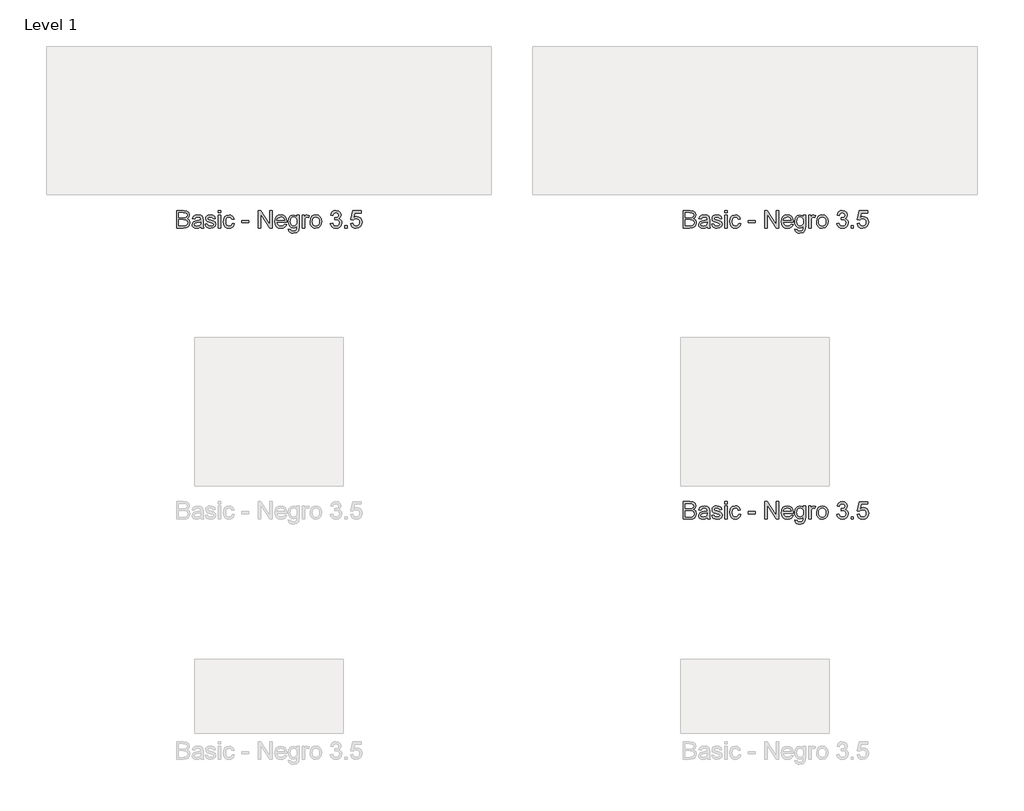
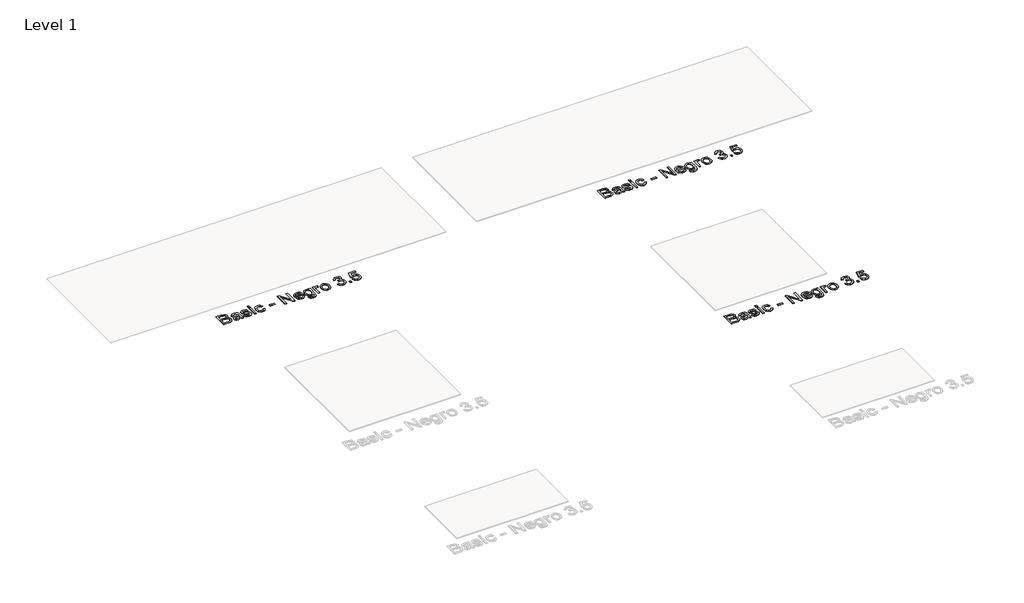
# One storey, part 60 of 80: 3 proxies.
"""IFC4 building model written with IfcOpenShell, lengths in millimetres."""

from ifc_helpers import new_model, si_unit, origin, origin_with_axes, place, context, project, spatial, polyline, outline, extrude, element, save

model = new_model("IFC4")

# Units and contexts
model_context = context("Model", 3, world=origin())
ifc_project = project(units=[si_unit("LENGTHUNIT", "METRE", prefix="MILLI")], contexts=[model_context])

# Site, building, storey
site = spatial("IfcSite", under=ifc_project)
building = spatial("IfcBuilding", under=site)
storey = spatial("IfcBuildingStorey", under=building, Name="Level 1", Elevation=0.0)

# Proxies
placement = place(None, origin())
element("IfcBuildingElementProxy", 1, Name="24\" Arial", ObjectType="24\" Arial", at=placement, inside=storey, context=model_context, shape_type="SweptSolid", body=[
    extrude(outline(polyline([(-7610.153031, 19224.0250725), (-7610.153031, 19342.1789187), (-7565.0664925, 19342.1789187), (-7542.9847617, 19338.7029571), (-7529.9463002, 19328.0154571), (-7525.2299541, 19312.9000725), (-7529.1963002, 19299.0971879), (-7541.1818771, 19288.6404571), (-7526.6289925, 19277.6212264), (-7521.5376464, 19259.2462264), (-7525.0136079, 19243.3664187), (-7533.6241848, 19232.0587264), (-7546.4751464, 19226.0587264), (-7565.4126464, 19224.0250725), (-7610.153031, 19224.0250725)]), holes=[polyline([(-7595.3838002, 19238.7943033), (-7565.0953387, 19238.7943033), (-7554.1338002, 19239.3712264), (-7544.8597617, 19242.5875725), (-7538.715531, 19249.1500725), (-7536.3068771, 19259.1019956), (-7539.1338002, 19270.5827648), (-7548.2924541, 19277.4337264), (-7566.5376464, 19279.4096879), (-7595.3838002, 19279.4096879), (-7595.3838002, 19238.7943033)]), polyline([(-7595.3838002, 19294.1789187), (-7568.4126464, 19294.1789187), (-7552.6626464, 19295.4481494), (-7543.1866848, 19300.9144956), (-7539.9991848, 19310.5346879), (-7542.9703387, 19320.1693033), (-7551.4799541, 19325.8664187), (-7570.4607233, 19327.4096879), (-7595.3838002, 19327.4096879), (-7595.3838002, 19294.1789187)])]), origin_with_axes(), (0.0, 0.0, 1.0), 2.0),
    extrude(outline(polyline([(-7447.6914925, 19235.1019956), (-7462.0136079, 19225.0923802), (-7477.8357233, 19222.1789187), (-7490.1782714, 19223.9313225), (-7499.2828387, 19229.188534), (-7504.8970214, 19237.1717071), (-7506.7684156, 19247.1019956), (-7503.9414925, 19258.7846879), (-7496.5136079, 19267.2654571), (-7486.1722617, 19272.111611), (-7473.3934156, 19274.3327648), (-7447.778031, 19279.4096879), (-7447.6914925, 19282.6981494), (-7451.7588002, 19293.6019956), (-7468.0857233, 19297.8712264), (-7483.028031, 19295.0298802), (-7490.153031, 19284.9481494), (-7504.9222617, 19286.7943033), (-7498.5328387, 19301.2173802), (-7485.6674541, 19309.6693033), (-7466.1818771, 19312.6404571), (-7448.2828387, 19310.0154571), (-7438.1722617, 19303.424111), (-7433.6434156, 19293.4000725), (-7432.9222617, 19280.4769956), (-7432.9222617, 19262.1019956), (-7432.1722617, 19236.4433417), (-7429.2299541, 19224.0250725), (-7443.9991848, 19224.0250725), (-7447.6914925, 19235.1019956)]), holes=[polyline([(-7447.6914925, 19264.6404571), (-7471.5184156, 19260.111611), (-7484.2251464, 19257.7173802), (-7489.9799541, 19253.8231494), (-7491.9991848, 19248.1404571), (-7487.6001464, 19240.1500725), (-7474.6914925, 19236.9481494), (-7459.7491848, 19240.4818033), (-7450.1145694, 19249.0346879), (-7447.778031, 19260.4577648), (-7447.6914925, 19264.6404571)])]), origin_with_axes(), (0.0, 0.0, 1.0), 2.0),
    extrude(outline(polyline([(-7418.153031, 19249.8712264), (-7403.3838002, 19251.7173802), (-7396.5472617, 19240.7558417), (-7380.8838002, 19236.9481494), (-7365.8261079, 19240.438534), (-7360.9222617, 19248.6308417), (-7365.8549541, 19255.2654571), (-7381.0568771, 19259.4769956), (-7403.2972617, 19266.7029571), (-7413.0039925, 19275.1404571), (-7416.3068771, 19287.0539187), (-7413.653031, 19298.0587264), (-7406.4126464, 19306.4673802), (-7397.0232233, 19310.8375725), (-7384.3164925, 19312.6404571), (-7366.3453387, 19309.7414187), (-7354.9222617, 19301.8952648), (-7349.8453387, 19288.6404571), (-7364.6145694, 19286.7943033), (-7370.1674541, 19294.9433417), (-7383.1626464, 19297.8712264), (-7397.2972617, 19295.0731494), (-7401.5376464, 19288.5539187), (-7399.778031, 19284.2558417), (-7394.2684156, 19280.9962264), (-7381.5472617, 19277.8519956), (-7359.8693771, 19270.9000725), (-7349.8020694, 19263.0250725), (-7346.153031, 19250.188534), (-7350.4366848, 19236.0539187), (-7362.7972617, 19225.799111), (-7381.0857233, 19222.1789187), (-7395.9775502, 19223.924111), (-7406.8453387, 19229.1596879), (-7414.1001464, 19237.8279571), (-7418.153031, 19249.8712264)])), origin_with_axes(), (0.0, 0.0, 1.0), 2.0),
    extrude(outline(polyline([(-7329.5376464, 19224.0250725), (-7329.5376464, 19310.7943033), (-7314.7684156, 19310.7943033), (-7314.7684156, 19224.0250725), (-7329.5376464, 19224.0250725)])), origin_with_axes(), (0.0, 0.0, 1.0), 2.0),
    extrude(outline(polyline([(-7329.5376464, 19327.4096879), (-7329.5376464, 19342.1789187), (-7314.7684156, 19342.1789187), (-7314.7684156, 19327.4096879), (-7329.5376464, 19327.4096879)])), origin_with_axes(), (0.0, 0.0, 1.0), 2.0),
    extrude(outline(polyline([(-7237.2299541, 19255.4096879), (-7222.4607233, 19253.563534), (-7226.5785117, 19240.4277167), (-7234.3164925, 19230.501034), (-7244.9463002, 19224.2594475), (-7257.7395694, 19222.1789187), (-7273.449906, 19225.0815629), (-7285.7347617, 19233.7894956), (-7293.6638483, 19247.9205052), (-7296.3068771, 19267.0923802), (-7291.7924541, 19291.626034), (-7286.0953387, 19300.8243514), (-7278.0328387, 19307.3904571), (-7257.9414925, 19312.6404571), (-7245.4619252, 19310.8375725), (-7235.4847617, 19305.4289187), (-7228.3273098, 19296.7029571), (-7224.3068771, 19284.9481494), (-7239.0761079, 19283.1019956), (-7245.9270694, 19294.1644956), (-7257.8261079, 19297.8712264), (-7267.3705791, 19296.0467071), (-7274.9463002, 19290.5731494), (-7279.8898098, 19281.1548802), (-7281.5376464, 19267.4962264), (-7279.9258675, 19253.6536783), (-7275.090531, 19244.2029571), (-7267.6518291, 19238.7618514), (-7258.2299541, 19236.9481494), (-7244.3116848, 19241.4769956), (-7237.2299541, 19255.4096879)])), origin_with_axes(), (0.0, 0.0, 1.0), 2.0),
    extrude(outline(polyline([(-7170.7684156, 19259.1019956), (-7170.7684156, 19273.8712264), (-7124.6145694, 19273.8712264), (-7124.6145694, 19259.1019956), (-7170.7684156, 19259.1019956)])), origin_with_axes(), (0.0, 0.0, 1.0), 2.0),
    extrude(outline(polyline([(-7059.9991848, 19224.0250725), (-7059.9991848, 19342.1789187), (-7044.1914925, 19342.1789187), (-6982.4607233, 19248.5731494), (-6982.4607233, 19342.1789187), (-6967.6914925, 19342.1789187), (-6967.6914925, 19224.0250725), (-6983.4991848, 19224.0250725), (-7045.2299541, 19317.6596879), (-7045.2299541, 19224.0250725), (-7059.9991848, 19224.0250725)])), origin_with_axes(), (0.0, 0.0, 1.0), 2.0),
    extrude(outline(polyline([(-6882.9414925, 19249.8712264), (-6868.4607233, 19248.0250725), (-6873.6782714, 19237.1140148), (-6882.0039925, 19228.9577648), (-6893.2503867, 19223.8736302), (-6907.2299541, 19222.1789187), (-6924.559281, 19225.1031975), (-6937.8934156, 19233.876034), (-6946.3958194, 19247.9277167), (-6949.2299541, 19266.688534), (-6946.3669733, 19286.080361), (-6937.778031, 19300.5827648), (-6924.6241848, 19309.626034), (-6908.0664925, 19312.6404571), (-6892.0244252, 19309.6332456), (-6879.2059156, 19300.611611), (-6870.8008675, 19286.1380533), (-6867.9991848, 19266.7750725), (-6868.0857233, 19262.7943033), (-6934.4607233, 19262.7943033), (-6931.9042329, 19251.7390148), (-6925.965531, 19243.611611), (-6917.3946175, 19238.6140148), (-6906.9414925, 19236.9481494), (-6892.4607233, 19240.0346879), (-6882.9414925, 19249.8712264)]), holes=[polyline([(-6934.4607233, 19277.563534), (-6882.7684156, 19277.563534), (-6888.6818771, 19290.9481494), (-6897.2924541, 19296.1404571), (-6908.1241848, 19297.8712264), (-6926.3116848, 19292.3471879), (-6932.0340406, 19285.8892552), (-6934.4607233, 19277.563534)])]), origin_with_axes(), (0.0, 0.0, 1.0), 2.0),
    extrude(outline(polyline([(-6856.9222617, 19216.6404571), (-6842.153031, 19214.7943033), (-6837.3645694, 19207.0058417), (-6823.028031, 19203.7173802), (-6807.9126464, 19207.438534), (-6800.7011079, 19217.8808417), (-6799.6914925, 19235.1019956), (-6810.090531, 19226.7943033), (-6822.7684156, 19224.0250725), (-6837.9955791, 19227.2486302), (-6849.3501464, 19236.9193033), (-6856.4138483, 19251.0971879), (-6858.7684156, 19267.8423802), (-6854.5424541, 19290.7318033), (-6842.3116848, 19306.9289187), (-6823.4895694, 19312.6404571), (-6810.3140887, 19309.4096879), (-6799.6914925, 19299.7173802), (-6799.6914925, 19310.7943033), (-6784.9222617, 19310.7943033), (-6784.9222617, 19235.8808417), (-6788.9607233, 19207.1933417), (-6801.7539925, 19193.8519956), (-6823.3164925, 19188.9481494), (-6837.0580791, 19190.6753129), (-6847.8789925, 19195.8568033), (-6854.8200983, 19204.5070437), (-6856.9222617, 19216.6404571)]), holes=[polyline([(-6843.9991848, 19268.8519956), (-6842.4234637, 19255.3051206), (-6837.6963002, 19245.9914187), (-6830.5893291, 19240.5935821), (-6821.8741848, 19238.7943033), (-6813.2239444, 19240.5827648), (-6806.0809156, 19245.9481494), (-6801.2888483, 19255.142861), (-6799.6914925, 19268.4193033), (-6801.3357233, 19281.2233898), (-6806.2684156, 19290.4433417), (-6813.5160117, 19296.0142552), (-6822.1049541, 19297.8712264), (-6830.5388483, 19296.0431014), (-6837.6097617, 19290.5587264), (-6842.4018291, 19281.4757937), (-6843.9991848, 19268.8519956)])]), origin_with_axes(), (0.0, 0.0, 1.0), 2.0),
    extrude(outline(polyline([(-6762.7684156, 19224.0250725), (-6762.7684156, 19310.7943033), (-6749.8453387, 19310.7943033), (-6749.8453387, 19297.9577648), (-6740.6722617, 19309.7846879), (-6731.4414925, 19312.6404571), (-6716.6145694, 19308.0827648), (-6721.5472617, 19294.8423802), (-6731.9318771, 19297.8712264), (-6740.2828387, 19294.9577648), (-6745.6049541, 19286.8808417), (-6747.9991848, 19269.6308417), (-6747.9991848, 19224.0250725), (-6762.7684156, 19224.0250725)])), origin_with_axes(), (0.0, 0.0, 1.0), 2.0),
    extrude(outline(polyline([(-6711.0761079, 19267.4096879), (-6707.8813964, 19288.330361), (-6698.2972617, 19303.0346879), (-6686.4559156, 19310.2390148), (-6672.278031, 19312.6404571), (-6656.762406, 19309.7161783), (-6644.3693771, 19300.9433417), (-6636.2455791, 19287.0142552), (-6633.5376464, 19268.6212264), (-6638.3261079, 19242.3423802), (-6652.2732233, 19227.4721879), (-6672.278031, 19222.1789187), (-6687.981156, 19225.0923802), (-6700.3597617, 19233.8327648), (-6708.3970214, 19248.0539187), (-6711.0761079, 19267.4096879)]), holes=[polyline([(-6696.3068771, 19267.438534), (-6694.5977425, 19254.0719475), (-6689.4703387, 19244.549111), (-6681.7539925, 19238.8483898), (-6672.278031, 19236.9481494), (-6662.8453387, 19238.8592071), (-6655.1434156, 19244.5923802), (-6650.0160117, 19254.2414187), (-6648.3068771, 19267.9000725), (-6650.0268291, 19280.877236), (-6655.1866848, 19290.2702648), (-6662.8994252, 19295.970986), (-6672.278031, 19297.8712264), (-6681.7539925, 19295.9781975), (-6689.4703387, 19290.299111), (-6694.5977425, 19280.797909), (-6696.3068771, 19267.438534)])]), origin_with_axes(), (0.0, 0.0, 1.0), 2.0),
    extrude(outline(polyline([(-6574.4607233, 19255.4096879), (-6559.6914925, 19257.2558417), (-6551.5424541, 19241.7077648), (-6536.2972617, 19236.9481494), (-6526.1722617, 19238.5851687), (-6518.3549541, 19243.4962264), (-6513.3573579, 19250.8231494), (-6511.6914925, 19259.7077648), (-6513.3429348, 19268.141659), (-6518.2972617, 19274.9818033), (-6525.7972617, 19279.5142552), (-6535.0857233, 19281.0250725), (-6545.4414925, 19279.4096879), (-6543.7972617, 19294.1789187), (-6541.4318771, 19294.0058417), (-6524.6722617, 19298.2462264), (-6519.090531, 19303.626034), (-6517.2299541, 19311.2846879), (-6522.6241848, 19322.8375725), (-6536.528031, 19327.4096879), (-6550.6049541, 19322.7943033), (-6557.8453387, 19308.9481494), (-6572.6145694, 19310.7943033), (-6568.2660117, 19324.0563225), (-6560.528031, 19333.9577648), (-6549.9414925, 19340.1236302), (-6537.0472617, 19342.1789187), (-6519.2347617, 19338.126034), (-6506.7732233, 19327.049111), (-6502.4607233, 19312.1500725), (-6506.5568771, 19298.5346879), (-6518.6722617, 19288.7558417), (-6509.4270694, 19285.0202648), (-6502.5761079, 19278.6596879), (-6498.3357233, 19270.0202648), (-6496.9222617, 19259.4481494), (-6499.7491848, 19245.0539187), (-6508.2299541, 19233.0250725), (-6521.0304348, 19224.8904571), (-6536.8164925, 19222.1789187), (-6551.0953387, 19224.4938225), (-6562.7203387, 19231.438534), (-6570.8044733, 19242.0611302), (-6574.4607233, 19255.4096879)])), origin_with_axes(), (0.0, 0.0, 1.0), 2.0),
    extrude(outline(polyline([(-6476.6145694, 19224.0250725), (-6476.6145694, 19238.7943033), (-6461.8453387, 19238.7943033), (-6461.8453387, 19224.0250725), (-6476.6145694, 19224.0250725)])), origin_with_axes(), (0.0, 0.0, 1.0), 2.0),
    extrude(outline(polyline([(-6437.8453387, 19255.4096879), (-6423.0761079, 19257.2558417), (-6415.6338002, 19242.0394956), (-6400.2011079, 19236.9481494), (-6389.6145694, 19238.7185821), (-6381.6818771, 19244.0298802), (-6376.7275502, 19252.2690629), (-6375.0761079, 19262.8231494), (-6376.6229829, 19272.7606494), (-6381.2636079, 19280.361611), (-6389.0340406, 19285.1861302), (-6399.9703387, 19286.7943033), (-6412.9366848, 19284.2269956), (-6421.2299541, 19277.563534), (-6435.9991848, 19279.4096879), (-6423.0761079, 19340.3327648), (-6365.8453387, 19340.3327648), (-6365.8453387, 19325.563534), (-6411.1338002, 19325.563534), (-6417.4511079, 19293.0250725), (-6406.9006271, 19299.4289187), (-6395.8453387, 19301.563534), (-6382.0460598, 19298.9168994), (-6370.590531, 19290.9769956), (-6362.8777906, 19278.876034), (-6360.3068771, 19263.7462264), (-6362.621781, 19248.9769956), (-6369.5664925, 19236.3423802), (-6382.8645694, 19225.719784), (-6400.2588002, 19222.1789187), (-6414.7648098, 19224.454159), (-6426.3213002, 19231.2798802), (-6434.2431752, 19241.8628129), (-6437.8453387, 19255.4096879)])), origin_with_axes(), (0.0, 0.0, 1.0), 2.0),
])
element("IfcBuildingElementProxy", 2, Name="24\" Arial", ObjectType="24\" Arial", at=placement, inside=storey, context=model_context, shape_type="SweptSolid", body=[
    extrude(outline(polyline([(-7610.153031, 17259.8026123), (-7610.153031, 17377.9564584), (-7565.0664925, 17377.9564584), (-7542.9847617, 17374.4804969), (-7529.9463002, 17363.7929969), (-7525.2299541, 17348.6776123), (-7529.1963002, 17334.8747276), (-7541.1818771, 17324.4179969), (-7526.6289925, 17313.3987661), (-7521.5376464, 17295.0237661), (-7525.0136079, 17279.1439584), (-7533.6241848, 17267.8362661), (-7546.4751464, 17261.8362661), (-7565.4126464, 17259.8026123), (-7610.153031, 17259.8026123)]), holes=[polyline([(-7595.3838002, 17274.571843), (-7565.0953387, 17274.571843), (-7554.1338002, 17275.1487661), (-7544.8597617, 17278.3651123), (-7538.715531, 17284.9276123), (-7536.3068771, 17294.8795353), (-7539.1338002, 17306.3603046), (-7548.2924541, 17313.2112661), (-7566.5376464, 17315.1872276), (-7595.3838002, 17315.1872276), (-7595.3838002, 17274.571843)]), polyline([(-7595.3838002, 17329.9564584), (-7568.4126464, 17329.9564584), (-7552.6626464, 17331.2256892), (-7543.1866848, 17336.6920353), (-7539.9991848, 17346.3122276), (-7542.9703387, 17355.946843), (-7551.4799541, 17361.6439584), (-7570.4607233, 17363.1872276), (-7595.3838002, 17363.1872276), (-7595.3838002, 17329.9564584)])]), origin_with_axes(), (0.0, 0.0, 1.0), 2.0),
    extrude(outline(polyline([(-7447.6914925, 17270.8795353), (-7462.0136079, 17260.8699199), (-7477.8357233, 17257.9564584), (-7490.1782714, 17259.7088623), (-7499.2828387, 17264.9660738), (-7504.8970214, 17272.9492469), (-7506.7684156, 17282.8795353), (-7503.9414925, 17294.5622276), (-7496.5136079, 17303.0429969), (-7486.1722617, 17307.8891507), (-7473.3934156, 17310.1103046), (-7447.778031, 17315.1872276), (-7447.6914925, 17318.4756892), (-7451.7588002, 17329.3795353), (-7468.0857233, 17333.6487661), (-7483.028031, 17330.8074199), (-7490.153031, 17320.7256892), (-7504.9222617, 17322.571843), (-7498.5328387, 17336.9949199), (-7485.6674541, 17345.446843), (-7466.1818771, 17348.4179969), (-7448.2828387, 17345.7929969), (-7438.1722617, 17339.2016507), (-7433.6434156, 17329.1776123), (-7432.9222617, 17316.2545353), (-7432.9222617, 17297.8795353), (-7432.1722617, 17272.2208815), (-7429.2299541, 17259.8026123), (-7443.9991848, 17259.8026123), (-7447.6914925, 17270.8795353)]), holes=[polyline([(-7447.6914925, 17300.4179969), (-7471.5184156, 17295.8891507), (-7484.2251464, 17293.4949199), (-7489.9799541, 17289.6006892), (-7491.9991848, 17283.9179969), (-7487.6001464, 17275.9276123), (-7474.6914925, 17272.7256892), (-7459.7491848, 17276.259343), (-7450.1145694, 17284.8122276), (-7447.778031, 17296.2353046), (-7447.6914925, 17300.4179969)])]), origin_with_axes(), (0.0, 0.0, 1.0), 2.0),
    extrude(outline(polyline([(-7418.153031, 17285.6487661), (-7403.3838002, 17287.4949199), (-7396.5472617, 17276.5333815), (-7380.8838002, 17272.7256892), (-7365.8261079, 17276.2160738), (-7360.9222617, 17284.4083815), (-7365.8549541, 17291.0429969), (-7381.0568771, 17295.2545353), (-7403.2972617, 17302.4804969), (-7413.0039925, 17310.9179969), (-7416.3068771, 17322.8314584), (-7413.653031, 17333.8362661), (-7406.4126464, 17342.2449199), (-7397.0232233, 17346.6151123), (-7384.3164925, 17348.4179969), (-7366.3453387, 17345.5189584), (-7354.9222617, 17337.6728046), (-7349.8453387, 17324.4179969), (-7364.6145694, 17322.571843), (-7370.1674541, 17330.7208815), (-7383.1626464, 17333.6487661), (-7397.2972617, 17330.8506892), (-7401.5376464, 17324.3314584), (-7399.778031, 17320.0333815), (-7394.2684156, 17316.7737661), (-7381.5472617, 17313.6295353), (-7359.8693771, 17306.6776123), (-7349.8020694, 17298.8026123), (-7346.153031, 17285.9660738), (-7350.4366848, 17271.8314584), (-7362.7972617, 17261.5766507), (-7381.0857233, 17257.9564584), (-7395.9775502, 17259.7016507), (-7406.8453387, 17264.9372276), (-7414.1001464, 17273.6054969), (-7418.153031, 17285.6487661)])), origin_with_axes(), (0.0, 0.0, 1.0), 2.0),
    extrude(outline(polyline([(-7329.5376464, 17259.8026123), (-7329.5376464, 17346.571843), (-7314.7684156, 17346.571843), (-7314.7684156, 17259.8026123), (-7329.5376464, 17259.8026123)])), origin_with_axes(), (0.0, 0.0, 1.0), 2.0),
    extrude(outline(polyline([(-7329.5376464, 17363.1872276), (-7329.5376464, 17377.9564584), (-7314.7684156, 17377.9564584), (-7314.7684156, 17363.1872276), (-7329.5376464, 17363.1872276)])), origin_with_axes(), (0.0, 0.0, 1.0), 2.0),
    extrude(outline(polyline([(-7237.2299541, 17291.1872276), (-7222.4607233, 17289.3410738), (-7226.5785117, 17276.2052565), (-7234.3164925, 17266.2785738), (-7244.9463002, 17260.0369873), (-7257.7395694, 17257.9564584), (-7273.449906, 17260.8591026), (-7285.7347617, 17269.5670353), (-7293.6638483, 17283.6980449), (-7296.3068771, 17302.8699199), (-7291.7924541, 17327.4035738), (-7286.0953387, 17336.6018911), (-7278.0328387, 17343.1679969), (-7257.9414925, 17348.4179969), (-7245.4619252, 17346.6151123), (-7235.4847617, 17341.2064584), (-7228.3273098, 17332.4804969), (-7224.3068771, 17320.7256892), (-7239.0761079, 17318.8795353), (-7245.9270694, 17329.9420353), (-7257.8261079, 17333.6487661), (-7267.3705791, 17331.8242469), (-7274.9463002, 17326.3506892), (-7279.8898098, 17316.9324199), (-7281.5376464, 17303.2737661), (-7279.9258675, 17289.431218), (-7275.090531, 17279.9804969), (-7267.6518291, 17274.5393911), (-7258.2299541, 17272.7256892), (-7244.3116848, 17277.2545353), (-7237.2299541, 17291.1872276)])), origin_with_axes(), (0.0, 0.0, 1.0), 2.0),
    extrude(outline(polyline([(-7170.7684156, 17294.8795353), (-7170.7684156, 17309.6487661), (-7124.6145694, 17309.6487661), (-7124.6145694, 17294.8795353), (-7170.7684156, 17294.8795353)])), origin_with_axes(), (0.0, 0.0, 1.0), 2.0),
    extrude(outline(polyline([(-7059.9991848, 17259.8026123), (-7059.9991848, 17377.9564584), (-7044.1914925, 17377.9564584), (-6982.4607233, 17284.3506892), (-6982.4607233, 17377.9564584), (-6967.6914925, 17377.9564584), (-6967.6914925, 17259.8026123), (-6983.4991848, 17259.8026123), (-7045.2299541, 17353.4372276), (-7045.2299541, 17259.8026123), (-7059.9991848, 17259.8026123)])), origin_with_axes(), (0.0, 0.0, 1.0), 2.0),
    extrude(outline(polyline([(-6882.9414925, 17285.6487661), (-6868.4607233, 17283.8026123), (-6873.6782714, 17272.8915546), (-6882.0039925, 17264.7353046), (-6893.2503867, 17259.6511699), (-6907.2299541, 17257.9564584), (-6924.559281, 17260.8807373), (-6937.8934156, 17269.6535738), (-6946.3958194, 17283.7052565), (-6949.2299541, 17302.4660738), (-6946.3669733, 17321.8579007), (-6937.778031, 17336.3603046), (-6924.6241848, 17345.4035738), (-6908.0664925, 17348.4179969), (-6892.0244252, 17345.4107853), (-6879.2059156, 17336.3891507), (-6870.8008675, 17321.915593), (-6867.9991848, 17302.5526123), (-6868.0857233, 17298.571843), (-6934.4607233, 17298.571843), (-6931.9042329, 17287.5165546), (-6925.965531, 17279.3891507), (-6917.3946175, 17274.3915546), (-6906.9414925, 17272.7256892), (-6892.4607233, 17275.8122276), (-6882.9414925, 17285.6487661)]), holes=[polyline([(-6934.4607233, 17313.3410738), (-6882.7684156, 17313.3410738), (-6888.6818771, 17326.7256892), (-6897.2924541, 17331.9179969), (-6908.1241848, 17333.6487661), (-6926.3116848, 17328.1247276), (-6932.0340406, 17321.6667949), (-6934.4607233, 17313.3410738)])]), origin_with_axes(), (0.0, 0.0, 1.0), 2.0),
    extrude(outline(polyline([(-6856.9222617, 17252.4179969), (-6842.153031, 17250.571843), (-6837.3645694, 17242.7833815), (-6823.028031, 17239.4949199), (-6807.9126464, 17243.2160738), (-6800.7011079, 17253.6583815), (-6799.6914925, 17270.8795353), (-6810.090531, 17262.571843), (-6822.7684156, 17259.8026123), (-6837.9955791, 17263.0261699), (-6849.3501464, 17272.696843), (-6856.4138483, 17286.8747276), (-6858.7684156, 17303.6199199), (-6854.5424541, 17326.509343), (-6842.3116848, 17342.7064584), (-6823.4895694, 17348.4179969), (-6810.3140887, 17345.1872276), (-6799.6914925, 17335.4949199), (-6799.6914925, 17346.571843), (-6784.9222617, 17346.571843), (-6784.9222617, 17271.6583815), (-6788.9607233, 17242.9708815), (-6801.7539925, 17229.6295353), (-6823.3164925, 17224.7256892), (-6837.0580791, 17226.4528526), (-6847.8789925, 17231.634343), (-6854.8200983, 17240.2845834), (-6856.9222617, 17252.4179969)]), holes=[polyline([(-6843.9991848, 17304.6295353), (-6842.4234637, 17291.0826603), (-6837.6963002, 17281.7689584), (-6830.5893291, 17276.3711219), (-6821.8741848, 17274.571843), (-6813.2239444, 17276.3603046), (-6806.0809156, 17281.7256892), (-6801.2888483, 17290.9204007), (-6799.6914925, 17304.196843), (-6801.3357233, 17317.0009296), (-6806.2684156, 17326.2208815), (-6813.5160117, 17331.7917949), (-6822.1049541, 17333.6487661), (-6830.5388483, 17331.8206411), (-6837.6097617, 17326.3362661), (-6842.4018291, 17317.2533334), (-6843.9991848, 17304.6295353)])]), origin_with_axes(), (0.0, 0.0, 1.0), 2.0),
    extrude(outline(polyline([(-6762.7684156, 17259.8026123), (-6762.7684156, 17346.571843), (-6749.8453387, 17346.571843), (-6749.8453387, 17333.7353046), (-6740.6722617, 17345.5622276), (-6731.4414925, 17348.4179969), (-6716.6145694, 17343.8603046), (-6721.5472617, 17330.6199199), (-6731.9318771, 17333.6487661), (-6740.2828387, 17330.7353046), (-6745.6049541, 17322.6583815), (-6747.9991848, 17305.4083815), (-6747.9991848, 17259.8026123), (-6762.7684156, 17259.8026123)])), origin_with_axes(), (0.0, 0.0, 1.0), 2.0),
    extrude(outline(polyline([(-6711.0761079, 17303.1872276), (-6707.8813964, 17324.1079007), (-6698.2972617, 17338.8122276), (-6686.4559156, 17346.0165546), (-6672.278031, 17348.4179969), (-6656.762406, 17345.493718), (-6644.3693771, 17336.7208815), (-6636.2455791, 17322.7917949), (-6633.5376464, 17304.3987661), (-6638.3261079, 17278.1199199), (-6652.2732233, 17263.2497276), (-6672.278031, 17257.9564584), (-6687.981156, 17260.8699199), (-6700.3597617, 17269.6103046), (-6708.3970214, 17283.8314584), (-6711.0761079, 17303.1872276)]), holes=[polyline([(-6696.3068771, 17303.2160738), (-6694.5977425, 17289.8494873), (-6689.4703387, 17280.3266507), (-6681.7539925, 17274.6259296), (-6672.278031, 17272.7256892), (-6662.8453387, 17274.6367469), (-6655.1434156, 17280.3699199), (-6650.0160117, 17290.0189584), (-6648.3068771, 17303.6776123), (-6650.0268291, 17316.6547757), (-6655.1866848, 17326.0478046), (-6662.8994252, 17331.7485257), (-6672.278031, 17333.6487661), (-6681.7539925, 17331.7557373), (-6689.4703387, 17326.0766507), (-6694.5977425, 17316.5754488), (-6696.3068771, 17303.2160738)])]), origin_with_axes(), (0.0, 0.0, 1.0), 2.0),
    extrude(outline(polyline([(-6574.4607233, 17291.1872276), (-6559.6914925, 17293.0333815), (-6551.5424541, 17277.4853046), (-6536.2972617, 17272.7256892), (-6526.1722617, 17274.3627084), (-6518.3549541, 17279.2737661), (-6513.3573579, 17286.6006892), (-6511.6914925, 17295.4853046), (-6513.3429348, 17303.9191988), (-6518.2972617, 17310.759343), (-6525.7972617, 17315.2917949), (-6535.0857233, 17316.8026123), (-6545.4414925, 17315.1872276), (-6543.7972617, 17329.9564584), (-6541.4318771, 17329.7833815), (-6524.6722617, 17334.0237661), (-6519.090531, 17339.4035738), (-6517.2299541, 17347.0622276), (-6522.6241848, 17358.6151123), (-6536.528031, 17363.1872276), (-6550.6049541, 17358.571843), (-6557.8453387, 17344.7256892), (-6572.6145694, 17346.571843), (-6568.2660117, 17359.8338623), (-6560.528031, 17369.7353046), (-6549.9414925, 17375.9011699), (-6537.0472617, 17377.9564584), (-6519.2347617, 17373.9035738), (-6506.7732233, 17362.8266507), (-6502.4607233, 17347.9276123), (-6506.5568771, 17334.3122276), (-6518.6722617, 17324.5333815), (-6509.4270694, 17320.7978046), (-6502.5761079, 17314.4372276), (-6498.3357233, 17305.7978046), (-6496.9222617, 17295.2256892), (-6499.7491848, 17280.8314584), (-6508.2299541, 17268.8026123), (-6521.0304348, 17260.6679969), (-6536.8164925, 17257.9564584), (-6551.0953387, 17260.2713623), (-6562.7203387, 17267.2160738), (-6570.8044733, 17277.8386699), (-6574.4607233, 17291.1872276)])), origin_with_axes(), (0.0, 0.0, 1.0), 2.0),
    extrude(outline(polyline([(-6476.6145694, 17259.8026123), (-6476.6145694, 17274.571843), (-6461.8453387, 17274.571843), (-6461.8453387, 17259.8026123), (-6476.6145694, 17259.8026123)])), origin_with_axes(), (0.0, 0.0, 1.0), 2.0),
    extrude(outline(polyline([(-6437.8453387, 17291.1872276), (-6423.0761079, 17293.0333815), (-6415.6338002, 17277.8170353), (-6400.2011079, 17272.7256892), (-6389.6145694, 17274.4961219), (-6381.6818771, 17279.8074199), (-6376.7275502, 17288.0466026), (-6375.0761079, 17298.6006892), (-6376.6229829, 17308.5381892), (-6381.2636079, 17316.1391507), (-6389.0340406, 17320.9636699), (-6399.9703387, 17322.571843), (-6412.9366848, 17320.0045353), (-6421.2299541, 17313.3410738), (-6435.9991848, 17315.1872276), (-6423.0761079, 17376.1103046), (-6365.8453387, 17376.1103046), (-6365.8453387, 17361.3410738), (-6411.1338002, 17361.3410738), (-6417.4511079, 17328.8026123), (-6406.9006271, 17335.2064584), (-6395.8453387, 17337.3410738), (-6382.0460598, 17334.6944392), (-6370.590531, 17326.7545353), (-6362.8777906, 17314.6535738), (-6360.3068771, 17299.5237661), (-6362.621781, 17284.7545353), (-6369.5664925, 17272.1199199), (-6382.8645694, 17261.4973238), (-6400.2588002, 17257.9564584), (-6414.7648098, 17260.2316988), (-6426.3213002, 17267.0574199), (-6434.2431752, 17277.6403526), (-6437.8453387, 17291.1872276)])), origin_with_axes(), (0.0, 0.0, 1.0), 2.0),
])
element("IfcBuildingElementProxy", 3, Name="24\" Arial", ObjectType="24\" Arial", at=placement, inside=storey, context=model_context, shape_type="SweptSolid", body=[
    extrude(outline(polyline([(-11026.7684156, 19224.0250725), (-11026.7684156, 19342.1789187), (-10981.6818771, 19342.1789187), (-10959.6001464, 19338.7029571), (-10946.5616848, 19328.0154571), (-10941.8453387, 19312.9000725), (-10945.8116848, 19299.0971879), (-10957.7972617, 19288.6404571), (-10943.2443771, 19277.6212264), (-10938.153031, 19259.2462264), (-10941.6289925, 19243.3664187), (-10950.2395694, 19232.0587264), (-10963.090531, 19226.0587264), (-10982.028031, 19224.0250725), (-11026.7684156, 19224.0250725)]), holes=[polyline([(-11011.9991848, 19238.7943033), (-10981.7107233, 19238.7943033), (-10970.7491848, 19239.3712264), (-10961.4751464, 19242.5875725), (-10955.3309156, 19249.1500725), (-10952.9222617, 19259.1019956), (-10955.7491848, 19270.5827648), (-10964.9078387, 19277.4337264), (-10983.153031, 19279.4096879), (-11011.9991848, 19279.4096879), (-11011.9991848, 19238.7943033)]), polyline([(-11011.9991848, 19294.1789187), (-10985.028031, 19294.1789187), (-10969.278031, 19295.4481494), (-10959.8020694, 19300.9144956), (-10956.6145694, 19310.5346879), (-10959.5857233, 19320.1693033), (-10968.0953387, 19325.8664187), (-10987.0761079, 19327.4096879), (-11011.9991848, 19327.4096879), (-11011.9991848, 19294.1789187)])]), origin_with_axes(), (0.0, 0.0, 1.0), 2.0),
    extrude(outline(polyline([(-10864.3068771, 19235.1019956), (-10878.6289925, 19225.0923802), (-10894.4511079, 19222.1789187), (-10906.793656, 19223.9313225), (-10915.8982233, 19229.188534), (-10921.512406, 19237.1717071), (-10923.3838002, 19247.1019956), (-10920.5568771, 19258.7846879), (-10913.1289925, 19267.2654571), (-10902.7876464, 19272.111611), (-10890.0088002, 19274.3327648), (-10864.3934156, 19279.4096879), (-10864.3068771, 19282.6981494), (-10868.3741848, 19293.6019956), (-10884.7011079, 19297.8712264), (-10899.6434156, 19295.0298802), (-10906.7684156, 19284.9481494), (-10921.5376464, 19286.7943033), (-10915.1482233, 19301.2173802), (-10902.2828387, 19309.6693033), (-10882.7972617, 19312.6404571), (-10864.8982233, 19310.0154571), (-10854.7876464, 19303.424111), (-10850.2588002, 19293.4000725), (-10849.5376464, 19280.4769956), (-10849.5376464, 19262.1019956), (-10848.7876464, 19236.4433417), (-10845.8453387, 19224.0250725), (-10860.6145694, 19224.0250725), (-10864.3068771, 19235.1019956)]), holes=[polyline([(-10864.3068771, 19264.6404571), (-10888.1338002, 19260.111611), (-10900.840531, 19257.7173802), (-10906.5953387, 19253.8231494), (-10908.6145694, 19248.1404571), (-10904.215531, 19240.1500725), (-10891.3068771, 19236.9481494), (-10876.3645694, 19240.4818033), (-10866.7299541, 19249.0346879), (-10864.3934156, 19260.4577648), (-10864.3068771, 19264.6404571)])]), origin_with_axes(), (0.0, 0.0, 1.0), 2.0),
    extrude(outline(polyline([(-10834.7684156, 19249.8712264), (-10819.9991848, 19251.7173802), (-10813.1626464, 19240.7558417), (-10797.4991848, 19236.9481494), (-10782.4414925, 19240.438534), (-10777.5376464, 19248.6308417), (-10782.4703387, 19255.2654571), (-10797.6722617, 19259.4769956), (-10819.9126464, 19266.7029571), (-10829.6193771, 19275.1404571), (-10832.9222617, 19287.0539187), (-10830.2684156, 19298.0587264), (-10823.028031, 19306.4673802), (-10813.6386079, 19310.8375725), (-10800.9318771, 19312.6404571), (-10782.9607233, 19309.7414187), (-10771.5376464, 19301.8952648), (-10766.4607233, 19288.6404571), (-10781.2299541, 19286.7943033), (-10786.7828387, 19294.9433417), (-10799.778031, 19297.8712264), (-10813.9126464, 19295.0731494), (-10818.153031, 19288.5539187), (-10816.3934156, 19284.2558417), (-10810.8838002, 19280.9962264), (-10798.1626464, 19277.8519956), (-10776.4847617, 19270.9000725), (-10766.4174541, 19263.0250725), (-10762.7684156, 19250.188534), (-10767.0520694, 19236.0539187), (-10779.4126464, 19225.799111), (-10797.7011079, 19222.1789187), (-10812.5929348, 19223.924111), (-10823.4607233, 19229.1596879), (-10830.715531, 19237.8279571), (-10834.7684156, 19249.8712264)])), origin_with_axes(), (0.0, 0.0, 1.0), 2.0),
    extrude(outline(polyline([(-10746.153031, 19224.0250725), (-10746.153031, 19310.7943033), (-10731.3838002, 19310.7943033), (-10731.3838002, 19224.0250725), (-10746.153031, 19224.0250725)])), origin_with_axes(), (0.0, 0.0, 1.0), 2.0),
    extrude(outline(polyline([(-10746.153031, 19327.4096879), (-10746.153031, 19342.1789187), (-10731.3838002, 19342.1789187), (-10731.3838002, 19327.4096879), (-10746.153031, 19327.4096879)])), origin_with_axes(), (0.0, 0.0, 1.0), 2.0),
    extrude(outline(polyline([(-10653.8453387, 19255.4096879), (-10639.0761079, 19253.563534), (-10643.1938964, 19240.4277167), (-10650.9318771, 19230.501034), (-10661.5616848, 19224.2594475), (-10674.3549541, 19222.1789187), (-10690.0652906, 19225.0815629), (-10702.3501464, 19233.7894956), (-10710.2792329, 19247.9205052), (-10712.9222617, 19267.0923802), (-10708.4078387, 19291.626034), (-10702.7107233, 19300.8243514), (-10694.6482233, 19307.3904571), (-10674.5568771, 19312.6404571), (-10662.0773098, 19310.8375725), (-10652.1001464, 19305.4289187), (-10644.9426944, 19296.7029571), (-10640.9222617, 19284.9481494), (-10655.6914925, 19283.1019956), (-10662.5424541, 19294.1644956), (-10674.4414925, 19297.8712264), (-10683.9859637, 19296.0467071), (-10691.5616848, 19290.5731494), (-10696.5051944, 19281.1548802), (-10698.153031, 19267.4962264), (-10696.5412521, 19253.6536783), (-10691.7059156, 19244.2029571), (-10684.2672137, 19238.7618514), (-10674.8453387, 19236.9481494), (-10660.9270694, 19241.4769956), (-10653.8453387, 19255.4096879)])), origin_with_axes(), (0.0, 0.0, 1.0), 2.0),
    extrude(outline(polyline([(-10587.3838002, 19259.1019956), (-10587.3838002, 19273.8712264), (-10541.2299541, 19273.8712264), (-10541.2299541, 19259.1019956), (-10587.3838002, 19259.1019956)])), origin_with_axes(), (0.0, 0.0, 1.0), 2.0),
    extrude(outline(polyline([(-10476.6145694, 19224.0250725), (-10476.6145694, 19342.1789187), (-10460.8068771, 19342.1789187), (-10399.0761079, 19248.5731494), (-10399.0761079, 19342.1789187), (-10384.3068771, 19342.1789187), (-10384.3068771, 19224.0250725), (-10400.1145694, 19224.0250725), (-10461.8453387, 19317.6596879), (-10461.8453387, 19224.0250725), (-10476.6145694, 19224.0250725)])), origin_with_axes(), (0.0, 0.0, 1.0), 2.0),
    extrude(outline(polyline([(-10299.5568771, 19249.8712264), (-10285.0761079, 19248.0250725), (-10290.293656, 19237.1140148), (-10298.6193771, 19228.9577648), (-10309.8657714, 19223.8736302), (-10323.8453387, 19222.1789187), (-10341.1746656, 19225.1031975), (-10354.5088002, 19233.876034), (-10363.0112041, 19247.9277167), (-10365.8453387, 19266.688534), (-10362.9823579, 19286.080361), (-10354.3934156, 19300.5827648), (-10341.2395694, 19309.626034), (-10324.6818771, 19312.6404571), (-10308.6398098, 19309.6332456), (-10295.8213002, 19300.611611), (-10287.4162521, 19286.1380533), (-10284.6145694, 19266.7750725), (-10284.7011079, 19262.7943033), (-10351.0761079, 19262.7943033), (-10348.5196175, 19251.7390148), (-10342.5809156, 19243.611611), (-10334.0100021, 19238.6140148), (-10323.5568771, 19236.9481494), (-10309.0761079, 19240.0346879), (-10299.5568771, 19249.8712264)]), holes=[polyline([(-10351.0761079, 19277.563534), (-10299.3838002, 19277.563534), (-10305.2972617, 19290.9481494), (-10313.9078387, 19296.1404571), (-10324.7395694, 19297.8712264), (-10342.9270694, 19292.3471879), (-10348.6494252, 19285.8892552), (-10351.0761079, 19277.563534)])]), origin_with_axes(), (0.0, 0.0, 1.0), 2.0),
    extrude(outline(polyline([(-10273.5376464, 19216.6404571), (-10258.7684156, 19214.7943033), (-10253.9799541, 19207.0058417), (-10239.6434156, 19203.7173802), (-10224.528031, 19207.438534), (-10217.3164925, 19217.8808417), (-10216.3068771, 19235.1019956), (-10226.7059156, 19226.7943033), (-10239.3838002, 19224.0250725), (-10254.6109637, 19227.2486302), (-10265.965531, 19236.9193033), (-10273.0292329, 19251.0971879), (-10275.3838002, 19267.8423802), (-10271.1578387, 19290.7318033), (-10258.9270694, 19306.9289187), (-10240.1049541, 19312.6404571), (-10226.9294733, 19309.4096879), (-10216.3068771, 19299.7173802), (-10216.3068771, 19310.7943033), (-10201.5376464, 19310.7943033), (-10201.5376464, 19235.8808417), (-10205.5761079, 19207.1933417), (-10218.3693771, 19193.8519956), (-10239.9318771, 19188.9481494), (-10253.6734637, 19190.6753129), (-10264.4943771, 19195.8568033), (-10271.4354829, 19204.5070437), (-10273.5376464, 19216.6404571)]), holes=[polyline([(-10260.6145694, 19268.8519956), (-10259.0388483, 19255.3051206), (-10254.3116848, 19245.9914187), (-10247.2047137, 19240.5935821), (-10238.4895694, 19238.7943033), (-10229.8393291, 19240.5827648), (-10222.6963002, 19245.9481494), (-10217.9042329, 19255.142861), (-10216.3068771, 19268.4193033), (-10217.9511079, 19281.2233898), (-10222.8838002, 19290.4433417), (-10230.1313964, 19296.0142552), (-10238.7203387, 19297.8712264), (-10247.1542329, 19296.0431014), (-10254.2251464, 19290.5587264), (-10259.0172137, 19281.4757937), (-10260.6145694, 19268.8519956)])]), origin_with_axes(), (0.0, 0.0, 1.0), 2.0),
    extrude(outline(polyline([(-10179.3838002, 19224.0250725), (-10179.3838002, 19310.7943033), (-10166.4607233, 19310.7943033), (-10166.4607233, 19297.9577648), (-10157.2876464, 19309.7846879), (-10148.0568771, 19312.6404571), (-10133.2299541, 19308.0827648), (-10138.1626464, 19294.8423802), (-10148.5472617, 19297.8712264), (-10156.8982233, 19294.9577648), (-10162.2203387, 19286.8808417), (-10164.6145694, 19269.6308417), (-10164.6145694, 19224.0250725), (-10179.3838002, 19224.0250725)])), origin_with_axes(), (0.0, 0.0, 1.0), 2.0),
    extrude(outline(polyline([(-10127.6914925, 19267.4096879), (-10124.496781, 19288.330361), (-10114.9126464, 19303.0346879), (-10103.0713002, 19310.2390148), (-10088.8934156, 19312.6404571), (-10073.3777906, 19309.7161783), (-10060.9847617, 19300.9433417), (-10052.8609637, 19287.0142552), (-10050.153031, 19268.6212264), (-10054.9414925, 19242.3423802), (-10068.8886079, 19227.4721879), (-10088.8934156, 19222.1789187), (-10104.5965406, 19225.0923802), (-10116.9751464, 19233.8327648), (-10125.012406, 19248.0539187), (-10127.6914925, 19267.4096879)]), holes=[polyline([(-10112.9222617, 19267.438534), (-10111.2131271, 19254.0719475), (-10106.0857233, 19244.549111), (-10098.3693771, 19238.8483898), (-10088.8934156, 19236.9481494), (-10079.4607233, 19238.8592071), (-10071.7588002, 19244.5923802), (-10066.6313964, 19254.2414187), (-10064.9222617, 19267.9000725), (-10066.6422137, 19280.877236), (-10071.8020694, 19290.2702648), (-10079.5148098, 19295.970986), (-10088.8934156, 19297.8712264), (-10098.3693771, 19295.9781975), (-10106.0857233, 19290.299111), (-10111.2131271, 19280.797909), (-10112.9222617, 19267.438534)])]), origin_with_axes(), (0.0, 0.0, 1.0), 2.0),
    extrude(outline(polyline([(-9991.0761079, 19255.4096879), (-9976.3068771, 19257.2558417), (-9968.1578387, 19241.7077648), (-9952.9126464, 19236.9481494), (-9942.7876464, 19238.5851687), (-9934.9703387, 19243.4962264), (-9929.9727425, 19250.8231494), (-9928.3068771, 19259.7077648), (-9929.9583194, 19268.141659), (-9934.9126464, 19274.9818033), (-9942.4126464, 19279.5142552), (-9951.7011079, 19281.0250725), (-9962.0568771, 19279.4096879), (-9960.4126464, 19294.1789187), (-9958.0472617, 19294.0058417), (-9941.2876464, 19298.2462264), (-9935.7059156, 19303.626034), (-9933.8453387, 19311.2846879), (-9939.2395694, 19322.8375725), (-9953.1434156, 19327.4096879), (-9967.2203387, 19322.7943033), (-9974.4607233, 19308.9481494), (-9989.2299541, 19310.7943033), (-9984.8813964, 19324.0563225), (-9977.1434156, 19333.9577648), (-9966.5568771, 19340.1236302), (-9953.6626464, 19342.1789187), (-9935.8501464, 19338.126034), (-9923.3886079, 19327.049111), (-9919.0761079, 19312.1500725), (-9923.1722617, 19298.5346879), (-9935.2876464, 19288.7558417), (-9926.0424541, 19285.0202648), (-9919.1914925, 19278.6596879), (-9914.9511079, 19270.0202648), (-9913.5376464, 19259.4481494), (-9916.3645694, 19245.0539187), (-9924.8453387, 19233.0250725), (-9937.6458194, 19224.8904571), (-9953.4318771, 19222.1789187), (-9967.7107233, 19224.4938225), (-9979.3357233, 19231.438534), (-9987.4198579, 19242.0611302), (-9991.0761079, 19255.4096879)])), origin_with_axes(), (0.0, 0.0, 1.0), 2.0),
    extrude(outline(polyline([(-9893.2299541, 19224.0250725), (-9893.2299541, 19238.7943033), (-9878.4607233, 19238.7943033), (-9878.4607233, 19224.0250725), (-9893.2299541, 19224.0250725)])), origin_with_axes(), (0.0, 0.0, 1.0), 2.0),
    extrude(outline(polyline([(-9854.4607233, 19255.4096879), (-9839.6914925, 19257.2558417), (-9832.2491848, 19242.0394956), (-9816.8164925, 19236.9481494), (-9806.2299541, 19238.7185821), (-9798.2972617, 19244.0298802), (-9793.3429348, 19252.2690629), (-9791.6914925, 19262.8231494), (-9793.2383675, 19272.7606494), (-9797.8789925, 19280.361611), (-9805.6494252, 19285.1861302), (-9816.5857233, 19286.7943033), (-9829.5520694, 19284.2269956), (-9837.8453387, 19277.563534), (-9852.6145694, 19279.4096879), (-9839.6914925, 19340.3327648), (-9782.4607233, 19340.3327648), (-9782.4607233, 19325.563534), (-9827.7491848, 19325.563534), (-9834.0664925, 19293.0250725), (-9823.5160117, 19299.4289187), (-9812.4607233, 19301.563534), (-9798.6614444, 19298.9168994), (-9787.2059156, 19290.9769956), (-9779.4931752, 19278.876034), (-9776.9222617, 19263.7462264), (-9779.2371656, 19248.9769956), (-9786.1818771, 19236.3423802), (-9799.4799541, 19225.719784), (-9816.8741848, 19222.1789187), (-9831.3801944, 19224.454159), (-9842.9366848, 19231.2798802), (-9850.8585598, 19241.8628129), (-9854.4607233, 19255.4096879)])), origin_with_axes(), (0.0, 0.0, 1.0), 2.0),
])

save(model, "model.ifc")
